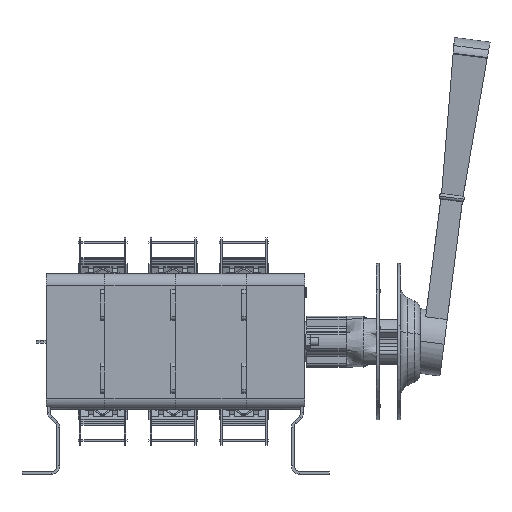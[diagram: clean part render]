
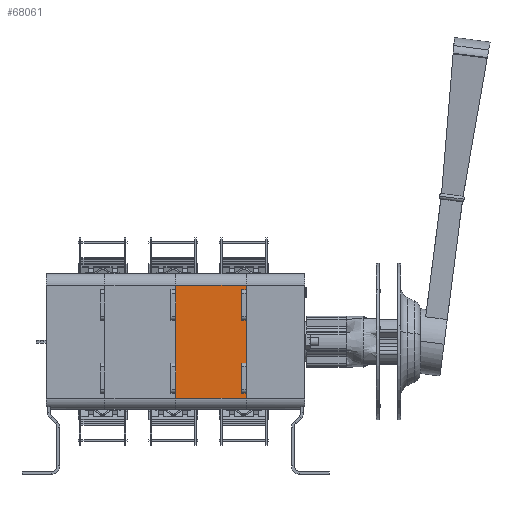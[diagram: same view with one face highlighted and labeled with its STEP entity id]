
A CAD part, front view. The second image highlights one B-rep face of the part: STEP entity #68061.
In plain terms, the highlighted planar face has unit normal (0, -1, 0).
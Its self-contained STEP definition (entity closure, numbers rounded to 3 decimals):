
#1932 = LINE ( 'NONE', #74156, #16053 ) ;
#2687 = AXIS2_PLACEMENT_3D ( 'NONE', #71392, #91582, #70104 ) ;
#2886 = CARTESIAN_POINT ( 'NONE',  ( 30., -35., 1.25 ) ) ;
#3531 = VECTOR ( 'NONE', #45246, 1000. ) ;
#5004 = CARTESIAN_POINT ( 'NONE',  ( -25.25, -35., 20.25 ) ) ;
#8341 = VECTOR ( 'NONE', #72990, 1000. ) ;
#8763 = LINE ( 'NONE', #2886, #76418 ) ;
#8867 = EDGE_CURVE ( 'NONE', #50669, #86141, #58554, .T. ) ;
#8877 = VECTOR ( 'NONE', #106382, 1000. ) ;
#10271 = PLANE ( 'NONE',  #2687 ) ;
#12170 = LINE ( 'NONE', #96274, #8877 ) ;
#12617 = CARTESIAN_POINT ( 'NONE',  ( 13.25, -35., 20.25 ) ) ;
#13164 = CARTESIAN_POINT ( 'NONE',  ( 13.25, -35., 20.25 ) ) ;
#13217 = CARTESIAN_POINT ( 'NONE',  ( -30., -35., 1.25 ) ) ;
#13439 = CARTESIAN_POINT ( 'NONE',  ( -13.25, -35., 20.25 ) ) ;
#14064 = ORIENTED_EDGE ( 'NONE', *, *, #103451, .T. ) ;
#14157 = VECTOR ( 'NONE', #120704, 1000. ) ;
#16053 = VECTOR ( 'NONE', #102361, 1000. ) ;
#17427 = ORIENTED_EDGE ( 'NONE', *, *, #86411, .F. ) ;
#18019 = VERTEX_POINT ( 'NONE', #37614 ) ;
#20049 = ORIENTED_EDGE ( 'NONE', *, *, #33819, .F. ) ;
#20806 = CARTESIAN_POINT ( 'NONE',  ( 0., -35., 17.95 ) ) ;
#22412 = EDGE_CURVE ( 'NONE', #78841, #80046, #96426, .T. ) ;
#27746 = DIRECTION ( 'NONE',  ( 1., 0., 0. ) ) ;
#32526 = VERTEX_POINT ( 'NONE', #5004 ) ;
#33819 = EDGE_CURVE ( 'NONE', #89220, #32526, #84418, .T. ) ;
#33925 = CARTESIAN_POINT ( 'NONE',  ( -13.25, -35., 17.95 ) ) ;
#35614 = VECTOR ( 'NONE', #27746, 1000. ) ;
#35676 = DIRECTION ( 'NONE',  ( 1., 0., 0. ) ) ;
#37004 = ORIENTED_EDGE ( 'NONE', *, *, #67016, .T. ) ;
#37614 = CARTESIAN_POINT ( 'NONE',  ( 25.25, -35., 17.95 ) ) ;
#38223 = EDGE_CURVE ( 'NONE', #80086, #78841, #65560, .T. ) ;
#38836 = EDGE_CURVE ( 'NONE', #86141, #76301, #8763, .T. ) ;
#40122 = ORIENTED_EDGE ( 'NONE', *, *, #104510, .F. ) ;
#40440 = DIRECTION ( 'NONE',  ( 0., 0., -1. ) ) ;
#42241 = LINE ( 'NONE', #13439, #59498 ) ;
#43819 = DIRECTION ( 'NONE',  ( 0., 0., -1. ) ) ;
#44497 = VECTOR ( 'NONE', #64672, 1000. ) ;
#45246 = DIRECTION ( 'NONE',  ( 1., 0., 0. ) ) ;
#47752 = LINE ( 'NONE', #69496, #68183 ) ;
#49112 = ORIENTED_EDGE ( 'NONE', *, *, #38223, .F. ) ;
#50669 = VERTEX_POINT ( 'NONE', #58556 ) ;
#51548 = VERTEX_POINT ( 'NONE', #98867 ) ;
#57357 = CARTESIAN_POINT ( 'NONE',  ( 30., -35., -17.25 ) ) ;
#58554 = LINE ( 'NONE', #64590, #3531 ) ;
#58556 = CARTESIAN_POINT ( 'NONE',  ( 25.25, -35., 20.25 ) ) ;
#59498 = VECTOR ( 'NONE', #43819, 1000. ) ;
#61832 = EDGE_CURVE ( 'NONE', #51548, #119983, #1932, .T. ) ;
#61844 = CARTESIAN_POINT ( 'NONE',  ( 30., -35., -17.25 ) ) ;
#62410 = VECTOR ( 'NONE', #35676, 1000. ) ;
#62430 = FACE_OUTER_BOUND ( 'NONE', #121727, .T. ) ;
#64590 = CARTESIAN_POINT ( 'NONE',  ( 30., -35., 20.25 ) ) ;
#64672 = DIRECTION ( 'NONE',  ( 0., 0., -1. ) ) ;
#65560 = LINE ( 'NONE', #97214, #62410 ) ;
#67016 = EDGE_CURVE ( 'NONE', #80086, #119983, #42241, .T. ) ;
#67176 = ORIENTED_EDGE ( 'NONE', *, *, #38836, .F. ) ;
#67724 = LINE ( 'NONE', #20806, #14157 ) ;
#68061 = ADVANCED_FACE ( 'NONE', ( #62430 ), #10271, .F. ) ;
#68183 = VECTOR ( 'NONE', #40440, 1000. ) ;
#68618 = CARTESIAN_POINT ( 'NONE',  ( 30., -35., 20.25 ) ) ;
#69496 = CARTESIAN_POINT ( 'NONE',  ( -25.25, -35., 20.25 ) ) ;
#69755 = LINE ( 'NONE', #13217, #44497 ) ;
#70104 = DIRECTION ( 'NONE',  ( 0., 0., 1. ) ) ;
#71392 = CARTESIAN_POINT ( 'NONE',  ( -30., -35., 1.25 ) ) ;
#72990 = DIRECTION ( 'NONE',  ( 0., 0., -1. ) ) ;
#74156 = CARTESIAN_POINT ( 'NONE',  ( 0., -35., 17.95 ) ) ;
#74356 = ORIENTED_EDGE ( 'NONE', *, *, #118981, .T. ) ;
#76301 = VERTEX_POINT ( 'NONE', #61844 ) ;
#76418 = VECTOR ( 'NONE', #91702, 1000. ) ;
#78841 = VERTEX_POINT ( 'NONE', #12617 ) ;
#80046 = VERTEX_POINT ( 'NONE', #94656 ) ;
#80086 = VERTEX_POINT ( 'NONE', #104779 ) ;
#80437 = VECTOR ( 'NONE', #96926, 1000. ) ;
#84418 = LINE ( 'NONE', #87969, #35614 ) ;
#86141 = VERTEX_POINT ( 'NONE', #68618 ) ;
#86411 = EDGE_CURVE ( 'NONE', #32526, #51548, #47752, .T. ) ;
#87969 = CARTESIAN_POINT ( 'NONE',  ( -30., -35., 20.25 ) ) ;
#88281 = LINE ( 'NONE', #57357, #80437 ) ;
#89220 = VERTEX_POINT ( 'NONE', #118828 ) ;
#91582 = DIRECTION ( 'NONE',  ( 0., 1., 0. ) ) ;
#91702 = DIRECTION ( 'NONE',  ( 0., 0., -1. ) ) ;
#93265 = EDGE_CURVE ( 'NONE', #80046, #18019, #67724, .T. ) ;
#94656 = CARTESIAN_POINT ( 'NONE',  ( 13.25, -35., 17.95 ) ) ;
#96274 = CARTESIAN_POINT ( 'NONE',  ( 25.25, -35., 20.25 ) ) ;
#96426 = LINE ( 'NONE', #13164, #8341 ) ;
#96926 = DIRECTION ( 'NONE',  ( -1., 0., 0. ) ) ;
#97214 = CARTESIAN_POINT ( 'NONE',  ( -13.25, -35., 20.25 ) ) ;
#97875 = CARTESIAN_POINT ( 'NONE',  ( -30., -35., -17.25 ) ) ;
#98867 = CARTESIAN_POINT ( 'NONE',  ( -25.25, -35., 17.95 ) ) ;
#99250 = VERTEX_POINT ( 'NONE', #97875 ) ;
#101411 = ORIENTED_EDGE ( 'NONE', *, *, #61832, .F. ) ;
#102361 = DIRECTION ( 'NONE',  ( 1., 0., 0. ) ) ;
#103451 = EDGE_CURVE ( 'NONE', #89220, #99250, #69755, .T. ) ;
#104510 = EDGE_CURVE ( 'NONE', #76301, #99250, #88281, .T. ) ;
#104779 = CARTESIAN_POINT ( 'NONE',  ( -13.25, -35., 20.25 ) ) ;
#106382 = DIRECTION ( 'NONE',  ( 0., 0., -1. ) ) ;
#109268 = ORIENTED_EDGE ( 'NONE', *, *, #93265, .F. ) ;
#118828 = CARTESIAN_POINT ( 'NONE',  ( -30., -35., 20.25 ) ) ;
#118845 = ORIENTED_EDGE ( 'NONE', *, *, #22412, .F. ) ;
#118981 = EDGE_CURVE ( 'NONE', #50669, #18019, #12170, .T. ) ;
#119983 = VERTEX_POINT ( 'NONE', #33925 ) ;
#120704 = DIRECTION ( 'NONE',  ( 1., 0., 0. ) ) ;
#121727 = EDGE_LOOP ( 'NONE', ( #14064, #40122, #67176, #130470, #74356, #109268, #118845, #49112, #37004, #101411, #17427, #20049 ) ) ;
#130470 = ORIENTED_EDGE ( 'NONE', *, *, #8867, .F. ) ;
